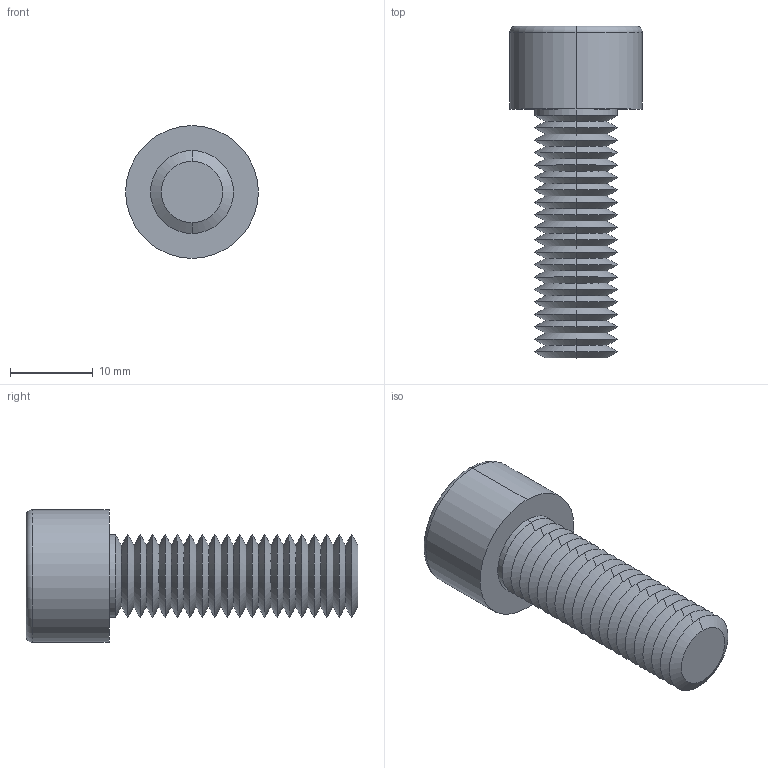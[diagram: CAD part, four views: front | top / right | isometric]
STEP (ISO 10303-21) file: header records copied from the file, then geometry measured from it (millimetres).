
FILE_DESCRIPTION (( 'STEP AP203' ), '1' );
FILE_NAME ('91N.100.0300.step', '2025-05-20T08:55:12', ( '' ), ( '' ), 'SwSTEP 2.0', 'SolidWorks 2019', '' );
FILE_SCHEMA (( 'CONFIG_CONTROL_DESIGN' ));
Length unit declared in the file: millimetre
Products named in the file (1): 91N.100.0300
Bounding box: 16 x 40 x 16 mm (x, y, z)
Volume: 3332.8 mm3; surface area: 2702.4 mm2
Topology: 1 solids, 1 shells, 108 faces, 215 edges, 109 vertices
Faces by surface type: cone 87, plane 15, cylinder 4, torus 2
Entity records: 2782 total; most frequent: DIRECTION 527, CARTESIAN_POINT 462, ORIENTED_EDGE 426, EDGE_CURVE 213, AXIS2_PLACEMENT_3D 212, EDGE_LOOP 110, VERTEX_POINT 109, FACE_OUTER_BOUND 108
